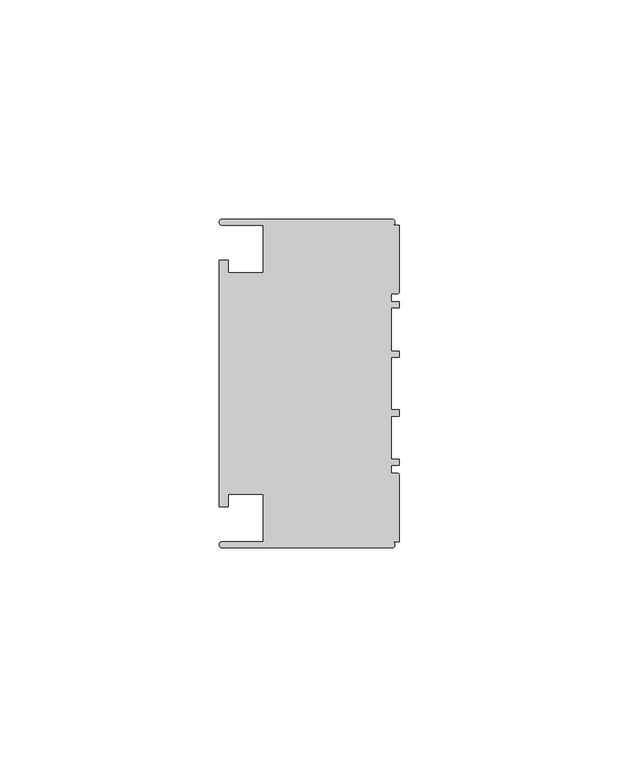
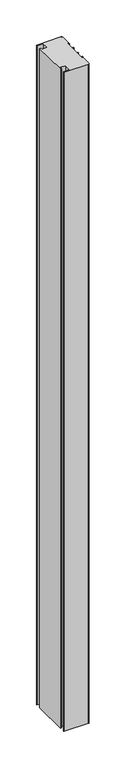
"""IFC4 building model written with IfcOpenShell, lengths in millimetres: member geometry, Прямоугольный импост : 3-AMG-2-Профиль 40Х75 Низ Л."""

from ifc_helpers import new_model, si_unit, point, frame, frame_2d, origin, place, context, project, spatial, polyline, circle_curve, trimmed, segment, composite_curve, outline, extrude, source, transform, mapped, element, save


def member_e13317de(model_context):
    return source(origin(), model_context, "Body", "SweptSolid", [
        extrude(outline(composite_curve([segment(polyline([(-1.7, -37.5), (-40.4, -37.5)]), True, "CONTINUOUS"), segment(trimmed(circle_curve(frame_2d((-40.4, -36.8)), 0.7), [point((-40.4, -37.5))], [point((-40.4, -36.1))], False, "CARTESIAN"), True, "CONTINUOUS"), segment(polyline([(-40.4, -36.1), (-31.0, -36.1), (-31.0, -25.25), (-39.0, -25.25), (-39.0, -28.1), (-41.1, -28.1), (-41.1, 28.1), (-39.0, 28.1), (-39.0, 25.25), (-31.0, 25.25), (-31.0, 36.1), (-40.4, 36.1)]), True, "CONTINUOUS"), segment(trimmed(circle_curve(frame_2d((-40.4, 36.8)), 0.7), [point((-40.4, 36.1))], [point((-40.4, 37.5))], False, "CARTESIAN"), True, "CONTINUOUS"), segment(polyline([(-40.4, 37.5), (-1.7, 37.5)]), True, "CONTINUOUS"), segment(trimmed(circle_curve(frame_2d((-1.7, 36.8)), 0.7), [point((-1.7, 37.5))], [point((-1.7, 36.1))], False, "CARTESIAN"), True, "CONTINUOUS"), segment(polyline([(-1.7, 36.1), (0.0, 36.1), (0.0, 20.95)]), True, "CONTINUOUS"), segment(trimmed(circle_curve(frame_2d((-0.5, 20.95)), 0.5), [point((0.0, 20.95))], [point((-0.5, 20.45))], False, "CARTESIAN"), True, "CONTINUOUS"), segment(polyline([(-0.5, 20.45), (-1.8, 20.45), (-1.8, 18.65), (0.0, 18.65), (0.0, 17.25), (-1.8, 17.25), (-1.8, 7.4), (0.0, 7.4), (0.0, 6.0), (-1.8, 6.0), (-1.8, -6.0), (0.0, -6.0), (0.0, -7.4), (-1.8, -7.4), (-1.8, -17.25), (0.0, -17.25), (0.0, -18.65), (-1.8, -18.65), (-1.8, -20.45), (-0.5, -20.45)]), True, "CONTINUOUS"), segment(trimmed(circle_curve(frame_2d((-0.5, -20.95)), 0.5), [point((-0.5, -20.45))], [point((0.0, -20.95))], False, "CARTESIAN"), True, "CONTINUOUS"), segment(polyline([(0.0, -20.95), (0.0, -36.1), (-1.7, -36.1)]), True, "CONTINUOUS"), segment(trimmed(circle_curve(frame_2d((-1.7, -36.8)), 0.7), [point((-1.7, -36.1))], [point((-1.7, -37.5))], False, "CARTESIAN"), True, "CONTINUOUS")], self_intersect=False)), frame((0.0, 0.0, -1101.1046876), z_axis=(0.0, 0.0, 1.0), x_axis=(1.0, 0.0, 0.0)), (0.0, 0.0, 1.0), 1101.1046876),
    ])


if __name__ == "__main__":
    model = new_model("IFC4")
    model_context = context("Model", 3, world=origin())
    ifc_project = project(units=[si_unit("LENGTHUNIT", "METRE", prefix="MILLI")], contexts=[model_context])
    site = spatial("IfcSite", under=ifc_project)
    building = spatial("IfcBuilding", under=site)
    placement = place(None, origin())
    member_shape = member_e13317de(model_context)
    element("IfcMember", 1, ObjectType="Прямоугольный импост : 3-AMG-2-Профиль 40Х75 Низ Л", at=placement, inside=building, context=model_context, shape_type="MappedRepresentation", body=[
        mapped(member_shape, transform((0.0, 0.0, 0.0), x_axis=(1.0, 0.0, 0.0), y_axis=(0.0, 1.0, 0.0), z_axis=(0.0, 0.0, 1.0))),
    ])
    save(model, "model.ifc")
